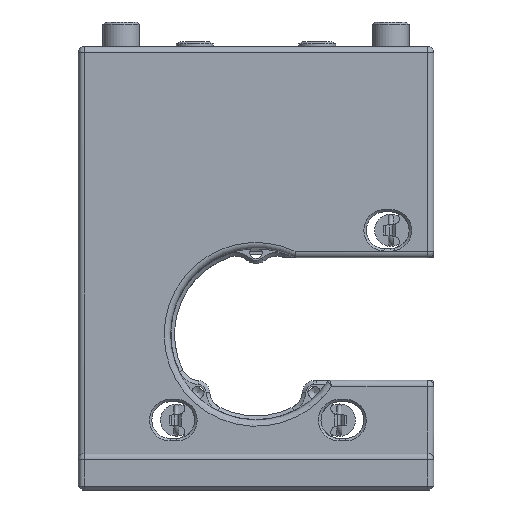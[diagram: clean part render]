
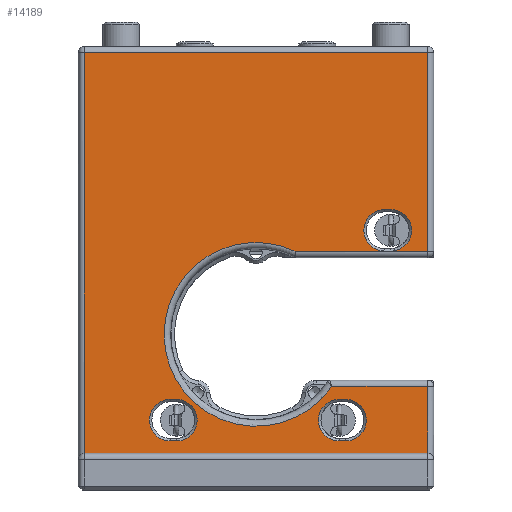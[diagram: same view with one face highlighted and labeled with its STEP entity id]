
A CAD part, left-side view. The second image highlights one B-rep face of the part: STEP entity #14189.
In plain terms, the highlighted planar face has unit normal (-1, 0, 0).
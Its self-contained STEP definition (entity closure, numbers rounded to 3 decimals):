
#566=LINE('',#21331,#1891);
#1024=LINE('',#22836,#2349);
#1032=LINE('',#22904,#2357);
#1033=LINE('',#22909,#2358);
#1037=LINE('',#22925,#2362);
#1131=LINE('',#23318,#2456);
#1134=LINE('',#23326,#2459);
#1139=LINE('',#23347,#2464);
#1142=LINE('',#23355,#2467);
#1144=LINE('',#23361,#2469);
#1145=LINE('',#23364,#2470);
#1146=LINE('',#23369,#2471);
#1147=LINE('',#23372,#2472);
#1891=VECTOR('',#16686,10.);
#2349=VECTOR('',#17672,10.);
#2357=VECTOR('',#17780,10.);
#2358=VECTOR('',#17789,10.);
#2362=VECTOR('',#17807,10.);
#2456=VECTOR('',#18167,10.);
#2459=VECTOR('',#18176,10.);
#2464=VECTOR('',#18197,10.);
#2467=VECTOR('',#18206,10.);
#2469=VECTOR('',#18214,10.);
#2470=VECTOR('',#18217,10.);
#2471=VECTOR('',#18220,10.);
#2472=VECTOR('',#18223,10.);
#3342=FACE_BOUND('',#4654,.T.);
#3343=FACE_BOUND('',#4655,.T.);
#3344=FACE_BOUND('',#4656,.T.);
#3769=FACE_OUTER_BOUND('',#4653,.T.);
#4653=EDGE_LOOP('',(#10989,#10990,#10991,#10992,#10993,#10994,#10995,#10996));
#4654=EDGE_LOOP('',(#10997,#10998,#10999,#11000));
#4655=EDGE_LOOP('',(#11001,#11002,#11003,#11004,#11005,#11006));
#4656=EDGE_LOOP('',(#11007,#11008,#11009,#11010));
#5402=CIRCLE('',#15371,1.7);
#5403=CIRCLE('',#15374,1.7);
#5404=CIRCLE('',#15377,1.7);
#5405=CIRCLE('',#15379,0.7);
#5407=CIRCLE('',#15385,1.7);
#5408=CIRCLE('',#15388,1.7);
#5409=CIRCLE('',#15390,7.5);
#5410=CIRCLE('',#15391,1.7);
#5411=CIRCLE('',#15392,1.7);
#5931=VERTEX_POINT('',#21327);
#5933=VERTEX_POINT('',#21330);
#6354=VERTEX_POINT('',#22832);
#6355=VERTEX_POINT('',#22834);
#6365=VERTEX_POINT('',#22902);
#6370=VERTEX_POINT('',#22923);
#6455=VERTEX_POINT('',#23308);
#6456=VERTEX_POINT('',#23309);
#6457=VERTEX_POINT('',#23317);
#6458=VERTEX_POINT('',#23321);
#6459=VERTEX_POINT('',#23325);
#6460=VERTEX_POINT('',#23329);
#6462=VERTEX_POINT('',#23344);
#6463=VERTEX_POINT('',#23346);
#6464=VERTEX_POINT('',#23350);
#6465=VERTEX_POINT('',#23354);
#6466=VERTEX_POINT('',#23360);
#6467=VERTEX_POINT('',#23362);
#6468=VERTEX_POINT('',#23365);
#6469=VERTEX_POINT('',#23366);
#6470=VERTEX_POINT('',#23368);
#6471=VERTEX_POINT('',#23370);
#7305=EDGE_CURVE('',#5931,#5933,#566,.T.);
#7891=EDGE_CURVE('',#6355,#6354,#1024,.T.);
#7928=EDGE_CURVE('',#6365,#6355,#1032,.T.);
#7930=EDGE_CURVE('',#5933,#6365,#1033,.T.);
#7938=EDGE_CURVE('',#6370,#5931,#1037,.T.);
#8102=EDGE_CURVE('',#6455,#6456,#5402,.T.);
#8105=EDGE_CURVE('',#6456,#6457,#1131,.T.);
#8107=EDGE_CURVE('',#6457,#6458,#5403,.T.);
#8109=EDGE_CURVE('',#6458,#6459,#1134,.T.);
#8111=EDGE_CURVE('',#6459,#6460,#5404,.T.);
#8113=EDGE_CURVE('',#6460,#6455,#5405,.T.);
#8118=EDGE_CURVE('',#6462,#6463,#1139,.T.);
#8120=EDGE_CURVE('',#6463,#6464,#5407,.T.);
#8122=EDGE_CURVE('',#6464,#6465,#1142,.T.);
#8124=EDGE_CURVE('',#6465,#6462,#5408,.T.);
#8125=EDGE_CURVE('',#6466,#6370,#1144,.T.);
#8126=EDGE_CURVE('',#6467,#6466,#5409,.T.);
#8127=EDGE_CURVE('',#6354,#6467,#1145,.T.);
#8128=EDGE_CURVE('',#6468,#6469,#5410,.T.);
#8129=EDGE_CURVE('',#6470,#6468,#1146,.T.);
#8130=EDGE_CURVE('',#6471,#6470,#5411,.T.);
#8131=EDGE_CURVE('',#6469,#6471,#1147,.T.);
#10989=ORIENTED_EDGE('',*,*,#7938,.F.);
#10990=ORIENTED_EDGE('',*,*,#8125,.F.);
#10991=ORIENTED_EDGE('',*,*,#8126,.F.);
#10992=ORIENTED_EDGE('',*,*,#8127,.F.);
#10993=ORIENTED_EDGE('',*,*,#7891,.F.);
#10994=ORIENTED_EDGE('',*,*,#7928,.F.);
#10995=ORIENTED_EDGE('',*,*,#7930,.F.);
#10996=ORIENTED_EDGE('',*,*,#7305,.F.);
#10997=ORIENTED_EDGE('',*,*,#8124,.F.);
#10998=ORIENTED_EDGE('',*,*,#8122,.F.);
#10999=ORIENTED_EDGE('',*,*,#8120,.F.);
#11000=ORIENTED_EDGE('',*,*,#8118,.F.);
#11001=ORIENTED_EDGE('',*,*,#8113,.F.);
#11002=ORIENTED_EDGE('',*,*,#8111,.F.);
#11003=ORIENTED_EDGE('',*,*,#8109,.F.);
#11004=ORIENTED_EDGE('',*,*,#8107,.F.);
#11005=ORIENTED_EDGE('',*,*,#8105,.F.);
#11006=ORIENTED_EDGE('',*,*,#8102,.F.);
#11007=ORIENTED_EDGE('',*,*,#8128,.F.);
#11008=ORIENTED_EDGE('',*,*,#8129,.F.);
#11009=ORIENTED_EDGE('',*,*,#8130,.F.);
#11010=ORIENTED_EDGE('',*,*,#8131,.F.);
#13618=PLANE('',#15389);
#14189=ADVANCED_FACE('',(#3769,#3342,#3343,#3344),#13618,.F.);
#15371=AXIS2_PLACEMENT_3D('',#23310,#18162,#18163);
#15374=AXIS2_PLACEMENT_3D('',#23322,#18171,#18172);
#15377=AXIS2_PLACEMENT_3D('',#23330,#18180,#18181);
#15379=AXIS2_PLACEMENT_3D('',#23336,#18184,#18185);
#15385=AXIS2_PLACEMENT_3D('',#23351,#18201,#18202);
#15388=AXIS2_PLACEMENT_3D('',#23358,#18210,#18211);
#15389=AXIS2_PLACEMENT_3D('',#23359,#18212,#18213);
#15390=AXIS2_PLACEMENT_3D('',#23363,#18215,#18216);
#15391=AXIS2_PLACEMENT_3D('',#23367,#18218,#18219);
#15392=AXIS2_PLACEMENT_3D('',#23371,#18221,#18222);
#16686=DIRECTION('',(0.,1.,0.));
#17672=DIRECTION('',(0.,0.,-1.));
#17780=DIRECTION('',(0.,-1.,0.));
#17789=DIRECTION('',(0.,0.,1.));
#17807=DIRECTION('',(0.,0.,-1.));
#18162=DIRECTION('center_axis',(-1.,0.,0.));
#18163=DIRECTION('ref_axis',(0.,0.,1.));
#18167=DIRECTION('',(0.,1.,0.));
#18171=DIRECTION('center_axis',(-1.,0.,0.));
#18172=DIRECTION('ref_axis',(0.,0.,1.));
#18176=DIRECTION('',(0.,-1.,0.));
#18180=DIRECTION('center_axis',(-1.,0.,0.));
#18181=DIRECTION('ref_axis',(0.,0.,-1.));
#18184=DIRECTION('center_axis',(-1.,0.,0.));
#18185=DIRECTION('ref_axis',(0.,0.,-1.));
#18197=DIRECTION('',(0.,1.,0.));
#18201=DIRECTION('center_axis',(-1.,0.,0.));
#18202=DIRECTION('ref_axis',(0.,0.,1.));
#18206=DIRECTION('',(0.,-1.,0.));
#18210=DIRECTION('center_axis',(-1.,0.,0.));
#18211=DIRECTION('ref_axis',(0.,0.,-1.));
#18212=DIRECTION('center_axis',(1.,0.,0.));
#18213=DIRECTION('ref_axis',(0.,0.,-1.));
#18214=DIRECTION('',(0.,-1.,0.));
#18215=DIRECTION('center_axis',(-1.,0.,0.));
#18216=DIRECTION('ref_axis',(0.,0.964,-0.266));
#18217=DIRECTION('',(0.,1.,0.));
#18218=DIRECTION('center_axis',(-1.,0.,0.));
#18219=DIRECTION('ref_axis',(0.,0.,-1.));
#18220=DIRECTION('',(0.,-1.,0.));
#18221=DIRECTION('center_axis',(-1.,0.,0.));
#18222=DIRECTION('ref_axis',(0.,0.,1.));
#18223=DIRECTION('',(0.,1.,0.));
#21327=CARTESIAN_POINT('',(-4.5,-14.,-9.7));
#21330=CARTESIAN_POINT('',(-4.5,14.,-9.7));
#21331=CARTESIAN_POINT('',(-4.5,0.,-9.7));
#22832=CARTESIAN_POINT('',(-4.5,-14.,6.75));
#22834=CARTESIAN_POINT('',(-4.5,-14.,23.));
#22836=CARTESIAN_POINT('',(-4.5,-14.,23.5));
#22902=CARTESIAN_POINT('',(-4.5,14.,23.));
#22904=CARTESIAN_POINT('',(-4.5,7.25,23.));
#22909=CARTESIAN_POINT('',(-4.5,14.,5.4));
#22923=CARTESIAN_POINT('',(-4.5,-14.,-4.25));
#22925=CARTESIAN_POINT('',(-4.5,-14.,23.5));
#23308=CARTESIAN_POINT('',(-4.5,-11.361,6.839));
#23309=CARTESIAN_POINT('',(-4.5,-11.,10.2));
#23310=CARTESIAN_POINT('Origin',(-4.5,-11.,8.5));
#23317=CARTESIAN_POINT('',(-4.5,-10.5,10.2));
#23318=CARTESIAN_POINT('',(-4.5,-5.25,10.2));
#23321=CARTESIAN_POINT('',(-4.5,-10.5,6.8));
#23322=CARTESIAN_POINT('Origin',(-4.5,-10.5,8.5));
#23325=CARTESIAN_POINT('',(-4.5,-11.,6.8));
#23326=CARTESIAN_POINT('',(-4.5,-5.5,6.8));
#23329=CARTESIAN_POINT('',(-4.5,-11.319,6.83));
#23330=CARTESIAN_POINT('Origin',(-4.5,-11.,8.5));
#23336=CARTESIAN_POINT('Origin',(-4.5,-11.2,7.52));
#23344=CARTESIAN_POINT('',(-4.5,6.5,-5.3));
#23346=CARTESIAN_POINT('',(-4.5,7.,-5.3));
#23347=CARTESIAN_POINT('',(-4.5,3.5,-5.3));
#23350=CARTESIAN_POINT('',(-4.5,7.,-8.7));
#23351=CARTESIAN_POINT('Origin',(-4.5,7.,-7.));
#23354=CARTESIAN_POINT('',(-4.5,6.5,-8.7));
#23355=CARTESIAN_POINT('',(-4.5,3.25,-8.7));
#23358=CARTESIAN_POINT('Origin',(-4.5,6.5,-7.));
#23359=CARTESIAN_POINT('Origin',(-4.5,0.,23.5));
#23360=CARTESIAN_POINT('',(-4.5,-6.18,-4.25));
#23361=CARTESIAN_POINT('',(-4.5,0.,-4.25));
#23362=CARTESIAN_POINT('',(-4.5,-3.269,6.75));
#23363=CARTESIAN_POINT('Origin',(-4.5,0.,0.));
#23364=CARTESIAN_POINT('',(-4.5,-7.25,6.75));
#23365=CARTESIAN_POINT('',(-4.5,-7.3,-8.7));
#23366=CARTESIAN_POINT('',(-4.5,-7.502,-5.312));
#23367=CARTESIAN_POINT('Origin',(-4.5,-7.3,-7.));
#23368=CARTESIAN_POINT('',(-4.5,-6.8,-8.7));
#23369=CARTESIAN_POINT('',(-4.5,-3.4,-8.7));
#23370=CARTESIAN_POINT('',(-4.5,-7.002,-5.312));
#23371=CARTESIAN_POINT('Origin',(-4.5,-6.8,-7.));
#23372=CARTESIAN_POINT('',(-4.5,-4.656,-5.312));
